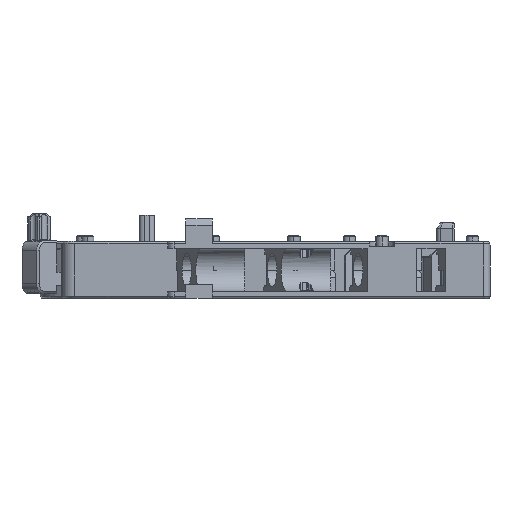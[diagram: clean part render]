
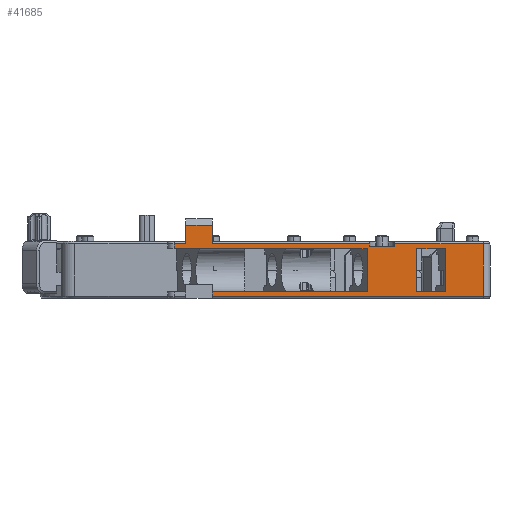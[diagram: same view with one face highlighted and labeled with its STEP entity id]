
A CAD part, left-side view. The second image highlights one B-rep face of the part: STEP entity #41685.
In plain terms, the highlighted planar face has unit normal (-1, 0, 0).
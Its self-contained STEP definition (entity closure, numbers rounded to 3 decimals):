
#1514=DIRECTION('',(0.,1.,0.));
#1515=VECTOR('',#1514,29.497);
#1516=CARTESIAN_POINT('',(-48.,-32.697,3.3));
#1517=LINE('',#1516,#1515);
#4569=DIRECTION('',(0.,0.,-1.));
#4570=VECTOR('',#4569,6.6);
#4571=CARTESIAN_POINT('',(-48.,-32.697,3.3));
#4572=LINE('',#4571,#4570);
#6794=DIRECTION('',(0.,0.,1.));
#6795=VECTOR('',#6794,8.05);
#6796=CARTESIAN_POINT('',(-48.,-50.5,-4.));
#6797=LINE('',#6796,#6795);
#6812=DIRECTION('',(0.,0.,-1.));
#6813=VECTOR('',#6812,0.75);
#6814=CARTESIAN_POINT('',(-48.,-3.2,4.05));
#6815=LINE('',#6814,#6813);
#6816=DIRECTION('',(0.,-1.,0.));
#6817=VECTOR('',#6816,1.81);
#6818=CARTESIAN_POINT('',(-48.,-3.2,4.05));
#6819=LINE('',#6818,#6817);
#6820=DIRECTION('',(0.,1.,0.));
#6821=VECTOR('',#6820,4.);
#6822=CARTESIAN_POINT('',(-48.,-9.01,6.85));
#6823=LINE('',#6822,#6821);
#6824=DIRECTION('',(0.,0.,1.));
#6825=VECTOR('',#6824,0.4);
#6826=CARTESIAN_POINT('',(-48.,-33.1,3.65));
#6827=LINE('',#6826,#6825);
#6828=DIRECTION('',(0.,1.,0.));
#6829=VECTOR('',#6828,3.8);
#6830=CARTESIAN_POINT('',(-48.,-36.9,3.65));
#6831=LINE('',#6830,#6829);
#6832=DIRECTION('',(0.,0.,1.));
#6833=VECTOR('',#6832,0.4);
#6834=CARTESIAN_POINT('',(-48.,-36.9,3.65));
#6835=LINE('',#6834,#6833);
#6836=DIRECTION('',(0.,1.,0.));
#6837=VECTOR('',#6836,41.478);
#6838=CARTESIAN_POINT('',(-48.,-50.5,-4.));
#6839=LINE('',#6838,#6837);
#6840=DIRECTION('',(0.,0.,1.));
#6841=VECTOR('',#6840,0.7);
#6842=CARTESIAN_POINT('',(-48.,-9.023,-4.));
#6843=LINE('',#6842,#6841);
#6844=DIRECTION('',(0.,1.,0.));
#6845=VECTOR('',#6844,4.344);
#6846=CARTESIAN_POINT('',(-48.,-44.661,-3.3));
#6847=LINE('',#6846,#6845);
#6868=DIRECTION('',(0.,0.,-1.));
#6869=VECTOR('',#6868,2.8);
#6870=CARTESIAN_POINT('',(-48.,-5.01,6.85));
#6871=LINE('',#6870,#6869);
#6924=DIRECTION('',(0.,0.,1.));
#6925=VECTOR('',#6924,2.8);
#6926=CARTESIAN_POINT('',(-48.,-9.01,4.05));
#6927=LINE('',#6926,#6925);
#6957=DIRECTION('',(0.,1.,0.));
#6958=VECTOR('',#6957,24.09);
#6959=CARTESIAN_POINT('',(-48.,-33.1,4.05));
#6960=LINE('',#6959,#6958);
#7104=DIRECTION('',(0.,1.,0.));
#7105=VECTOR('',#7104,13.6);
#7106=CARTESIAN_POINT('',(-48.,-50.5,4.05));
#7107=LINE('',#7106,#7105);
#18541=DIRECTION('',(0.,1.,0.));
#18542=VECTOR('',#18541,23.675);
#18543=CARTESIAN_POINT('',(-48.,-32.697,-3.3));
#18544=LINE('',#18543,#18542);
#21627=DIRECTION('',(0.,0.,-1.));
#21628=VECTOR('',#21627,6.6);
#21629=CARTESIAN_POINT('',(-48.,-44.661,3.3));
#21630=LINE('',#21629,#21628);
#22258=DIRECTION('',(0.,0.,1.));
#22259=VECTOR('',#22258,6.6);
#22260=CARTESIAN_POINT('',(-48.,-40.317,-3.3));
#22261=LINE('',#22260,#22259);
#22270=DIRECTION('',(0.,1.,0.));
#22271=VECTOR('',#22270,4.344);
#22272=CARTESIAN_POINT('',(-48.,-44.661,3.3));
#22273=LINE('',#22272,#22271);
#26642=CARTESIAN_POINT('',(-48.,-44.661,-3.3));
#26643=CARTESIAN_POINT('',(-48.,-40.317,-3.3));
#26644=VERTEX_POINT('',#26642);
#26645=VERTEX_POINT('',#26643);
#26672=CARTESIAN_POINT('',(-48.,-32.697,-3.3));
#26673=CARTESIAN_POINT('',(-48.,-9.023,-3.3));
#26674=VERTEX_POINT('',#26672);
#26675=VERTEX_POINT('',#26673);
#27535=CARTESIAN_POINT('',(-48.,-9.023,-4.));
#27537=VERTEX_POINT('',#27535);
#27538=CARTESIAN_POINT('',(-48.,-50.5,-4.));
#27539=VERTEX_POINT('',#27538);
#30317=CARTESIAN_POINT('',(-48.,-32.697,3.3));
#30318=VERTEX_POINT('',#30317);
#30409=CARTESIAN_POINT('',(-48.,-44.661,3.3));
#30410=CARTESIAN_POINT('',(-48.,-40.317,3.3));
#30411=VERTEX_POINT('',#30409);
#30412=VERTEX_POINT('',#30410);
#30489=CARTESIAN_POINT('',(-48.,-5.01,6.85));
#30491=VERTEX_POINT('',#30489);
#30495=CARTESIAN_POINT('',(-48.,-9.01,6.85));
#30496=VERTEX_POINT('',#30495);
#31075=CARTESIAN_POINT('',(-48.,-9.01,4.05));
#31077=VERTEX_POINT('',#31075);
#31086=CARTESIAN_POINT('',(-48.,-5.01,4.05));
#31087=VERTEX_POINT('',#31086);
#31564=CARTESIAN_POINT('',(-48.,-3.2,3.3));
#31566=VERTEX_POINT('',#31564);
#31586=CARTESIAN_POINT('',(-48.,-50.5,4.05));
#31587=VERTEX_POINT('',#31586);
#31591=CARTESIAN_POINT('',(-48.,-3.2,4.05));
#31593=VERTEX_POINT('',#31591);
#32453=CARTESIAN_POINT('',(-48.,-36.9,3.65));
#32454=CARTESIAN_POINT('',(-48.,-33.1,3.65));
#32455=VERTEX_POINT('',#32453);
#32456=VERTEX_POINT('',#32454);
#32457=CARTESIAN_POINT('',(-48.,-33.1,4.05));
#32458=VERTEX_POINT('',#32457);
#32459=CARTESIAN_POINT('',(-48.,-36.9,4.05));
#32460=VERTEX_POINT('',#32459);
#41639=CARTESIAN_POINT('',(-48.,14.,-4.3));
#41640=DIRECTION('',(-1.,0.,0.));
#41641=DIRECTION('',(0.,-1.,0.));
#41642=AXIS2_PLACEMENT_3D('',#41639,#41640,#41641);
#41643=PLANE('',#41642);
#41644=ORIENTED_EDGE('',*,*,#38776,.F.);
#41645=ORIENTED_EDGE('',*,*,#35046,.T.);
#41647=ORIENTED_EDGE('',*,*,#41646,.F.);
#41649=ORIENTED_EDGE('',*,*,#41648,.T.);
#41651=ORIENTED_EDGE('',*,*,#41650,.F.);
#41653=ORIENTED_EDGE('',*,*,#41652,.F.);
#41655=ORIENTED_EDGE('',*,*,#41654,.F.);
#41657=ORIENTED_EDGE('',*,*,#41656,.F.);
#41659=ORIENTED_EDGE('',*,*,#41658,.F.);
#41661=ORIENTED_EDGE('',*,*,#41660,.F.);
#41663=ORIENTED_EDGE('',*,*,#41662,.T.);
#41665=ORIENTED_EDGE('',*,*,#41664,.F.);
#41666=ORIENTED_EDGE('',*,*,#41629,.F.);
#41668=ORIENTED_EDGE('',*,*,#41667,.T.);
#41670=ORIENTED_EDGE('',*,*,#41669,.T.);
#41672=ORIENTED_EDGE('',*,*,#41671,.F.);
#41673=EDGE_LOOP('',(#41644,#41645,#41647,#41649,#41651,#41653,#41655,#41657,
#41659,#41661,#41663,#41665,#41666,#41668,#41670,#41672));
#41674=FACE_OUTER_BOUND('',#41673,.F.);
#41676=ORIENTED_EDGE('',*,*,#41675,.F.);
#41678=ORIENTED_EDGE('',*,*,#41677,.T.);
#41680=ORIENTED_EDGE('',*,*,#41679,.F.);
#41682=ORIENTED_EDGE('',*,*,#41681,.F.);
#41683=EDGE_LOOP('',(#41676,#41678,#41680,#41682));
#41684=FACE_BOUND('',#41683,.F.);
#41685=ADVANCED_FACE('',(#41674,#41684),#41643,.T.);
#35046=EDGE_CURVE('',#30318,#31566,#1517,.T.);
#38776=EDGE_CURVE('',#30318,#26674,#4572,.T.);
#41629=EDGE_CURVE('',#27539,#31587,#6797,.T.);
#41646=EDGE_CURVE('',#31593,#31566,#6815,.T.);
#41648=EDGE_CURVE('',#31593,#31087,#6819,.T.);
#41650=EDGE_CURVE('',#30491,#31087,#6871,.T.);
#41652=EDGE_CURVE('',#30496,#30491,#6823,.T.);
#41654=EDGE_CURVE('',#31077,#30496,#6927,.T.);
#41656=EDGE_CURVE('',#32458,#31077,#6960,.T.);
#41658=EDGE_CURVE('',#32456,#32458,#6827,.T.);
#41660=EDGE_CURVE('',#32455,#32456,#6831,.T.);
#41662=EDGE_CURVE('',#32455,#32460,#6835,.T.);
#41664=EDGE_CURVE('',#31587,#32460,#7107,.T.);
#41667=EDGE_CURVE('',#27539,#27537,#6839,.T.);
#41669=EDGE_CURVE('',#27537,#26675,#6843,.T.);
#41671=EDGE_CURVE('',#26674,#26675,#18544,.T.);
#41675=EDGE_CURVE('',#30411,#26644,#21630,.T.);
#41677=EDGE_CURVE('',#30411,#30412,#22273,.T.);
#41679=EDGE_CURVE('',#26645,#30412,#22261,.T.);
#41681=EDGE_CURVE('',#26644,#26645,#6847,.T.);
